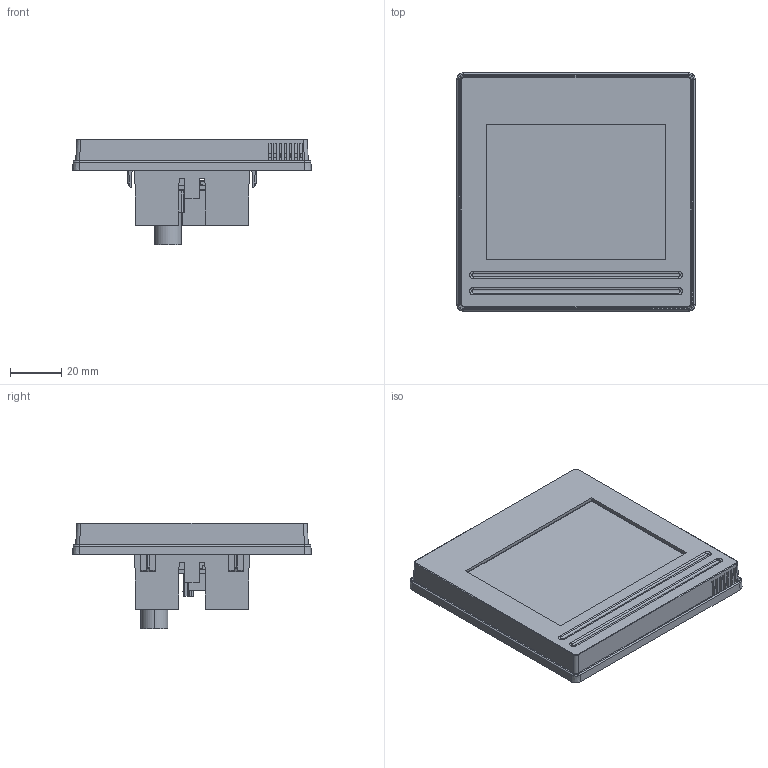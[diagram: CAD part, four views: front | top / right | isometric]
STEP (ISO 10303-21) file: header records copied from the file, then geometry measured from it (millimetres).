
FILE_DESCRIPTION (( 'STEP AP214' ), '1' );
FILE_NAME ('05-985-352_HZS352.STEP', '2014-05-13T10:59:23', ( 'gianik' ), ( '' ), 'SwSTEP 2.0', 'SolidWorks 2013', '' );
FILE_SCHEMA (( 'AUTOMOTIVE_DESIGN' ));
Length unit declared in the file: millimetre
Products named in the file (13): 114101_20140401; 114501_20140129; 4080225346 Erni Art.Nr. 464824 ähnlich 254587; 114501_20140129_DXF; Einsatz f黵 Unterputzdose V16.0 mit FS; 7227771128 - TM035KBH02_V1.41_ohne oben; Deckel f黵 Front V17.0 mit FS; Front 3,5 Zoll V15 mit FS; 05-985-352_HZS352; Steckerbelegungsetikette; 114101_20140415; 4080225405 5pol USB-Buchse 180Grad
Assembly tree (11 placements, depth 3):
  114501_20140129_DXF
  05-985-352_HZS352
    Front 3,5 Zoll V15 mit FS
    Deckel f黵 Front V17.0 mit FS
    7227771128 - TM035KBH02_V1.41_ohne oben
    Einsatz f黵 Unterputzdose V16.0 mit FS
    114501_20140129
      114501_20140129
      4080225346 Erni Art.Nr. 464824 ähnlich 254587
    114101_20140415
      114101_20140401
      4080225405 5pol USB-Buchse 180Grad
    Steckerbelegungsetikette
Bounding box: 93.27 x 93.27 x 41.2 mm (x, y, z)
Volume: 78364.7 mm3; surface area: 98980.9 mm2
Topology: 225 solids, 225 shells, 3585 faces, 8974 edges, 5893 vertices
Faces by surface type: plane 2701, cylinder 626, cone 140, bspline 96, torus 22
Entity records: 141680 total; most frequent: CARTESIAN_POINT 26607, ORIENTED_EDGE 17896, DIRECTION 15157, EDGE_CURVE 8948, VECTOR 7015, LINE 7015, VERTEX_POINT 5892, AXIS2_PLACEMENT_3D 4071
